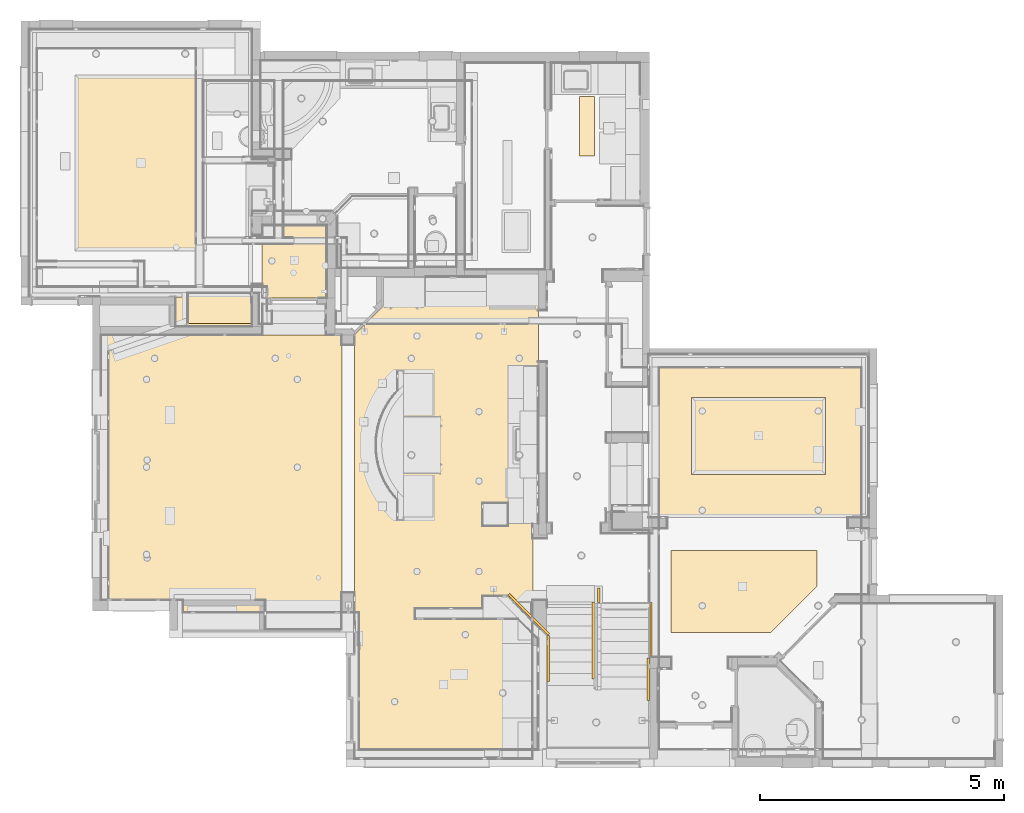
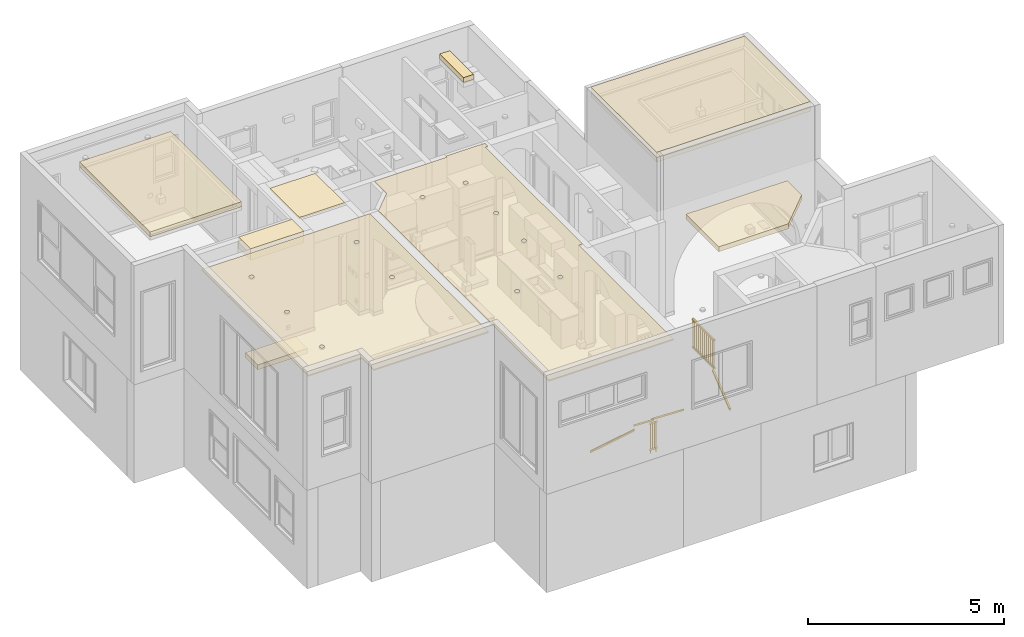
# One storey, part 31 of 60: 10 coverings, 6 railings, 1 element without a shape of its own.
"""IFC2X3 building model written with IfcOpenShell, lengths in feet."""

import ifcopenshell
import ifcopenshell.guid

model = None  # the IFC model being written
_history = None  # IfcOwnerHistory: only IFC2X3 demands one
_inside = {}  # id of a spatial element -> (the spatial element, [elements in it])
_under = {}  # id of a project, library or spatial element -> (it, [spatial elements below it])
_declared = {}  # id of a project -> (the project, [libraries it declares])
_typed = {}  # id of a type object -> (the type object, [elements of that type])
_made_of = {}  # id of a material, layer set ... -> (it, [elements and type objects made of it])


def new_model(schema):
    """Start an empty IFC model of exactly this schema.

    Asked for "IFC4X3", IfcOpenShell would pick the latest addendum, in which some entities
    have other attributes; the version numbers below select the first issue.
    IFC2X3 requires an IfcOwnerHistory on every rooted entity: one is made here for all.
    """
    global model, _history
    if schema == "IFC4X3":
        model = ifcopenshell.file(schema_version=(4, 3, 0, 0))
    else:
        model = ifcopenshell.file(schema=schema)
    _inside.clear()
    _under.clear()
    _declared.clear()
    _typed.clear()
    _made_of.clear()
    _history = None
    if model.schema == "IFC2X3":
        org = make("IfcOrganization", Name="unknown")
        user = make(
            "IfcPersonAndOrganization",
            ThePerson=make("IfcPerson", FamilyName="unknown"),
            TheOrganization=org,
        )
        app = make(
            "IfcApplication",
            ApplicationDeveloper=org,
            Version="unknown",
            ApplicationFullName="unknown",
            ApplicationIdentifier="unknown",
        )
        _history = make(
            "IfcOwnerHistory",
            OwningUser=user,
            OwningApplication=app,
            ChangeAction="ADDED",
            CreationDate=0,
        )
    return model


def make(cls, **values):
    """One entity of the class cls with the attributes given. An attribute that is None is left unset."""
    return model.create_entity(
        cls, **{name: value for name, value in values.items() if value is not None}
    )


def entity(cls, *values):
    """Any entity or typed value of the class cls, its attributes in the order of the schema. None: left unset."""
    e = model.create_entity(cls)
    for i, value in enumerate(values):
        if value is not None:
            e[i] = value
    return e


def rooted(cls, **values):
    """An entity with a GlobalId (a new one), such as an element, a storey or a relation."""
    return make(cls, GlobalId=ifcopenshell.guid.new(), OwnerHistory=_history, **values)


def si_unit(unit_type, name, prefix=None):
    """IfcSIUnit, for example si_unit("LENGTHUNIT", "METRE", prefix="MILLI")."""
    return make("IfcSIUnit", UnitType=unit_type, Prefix=prefix, Name=name)


def converted_unit(unit_type, name, factor, base, dimensions=None, offset=None):
    """IfcConversionBasedUnit, such as the inch: factor (a typed value) times the base unit."""
    return make(
        "IfcConversionBasedUnit"
        if offset is None
        else "IfcConversionBasedUnitWithOffset",
        ConversionOffset=offset,
        Dimensions=None
        if dimensions is None
        else entity("IfcDimensionalExponents", *dimensions),
        UnitType=unit_type,
        Name=name,
        ConversionFactor=make(
            "IfcMeasureWithUnit", ValueComponent=factor, UnitComponent=base
        ),
    )


def assignment(units):
    """IfcUnitAssignment: the units of a project."""
    return None if units is None else make("IfcUnitAssignment", Units=units)


def point(xyz):
    """IfcCartesianPoint."""
    return None if xyz is None else make("IfcCartesianPoint", Coordinates=xyz)


def direction(xyz):
    """IfcDirection."""
    return None if xyz is None else make("IfcDirection", DirectionRatios=xyz)


def frame(location, z_axis=None, x_axis=None):
    """IfcAxis2Placement3D, a coordinate frame: its origin and axes. An axis left out is left unset."""
    return make(
        "IfcAxis2Placement3D",
        Location=point(location),
        Axis=direction(z_axis),
        RefDirection=direction(x_axis),
    )


def frame_2d(location, x_axis=None):
    """IfcAxis2Placement2D, a coordinate frame in the plane: its origin and x axis."""
    return make(
        "IfcAxis2Placement2D", Location=point(location), RefDirection=direction(x_axis)
    )


def origin():
    """The frame at (0, 0, 0) with its axes left unset."""
    return frame((0.0, 0.0, 0.0))


def origin_2d_with_axis():
    """The frame at (0, 0) in the plane with the x axis (1, 0) written out."""
    return frame_2d((0.0, 0.0), x_axis=(1.0, 0.0))


def place(relative_to, where):
    """IfcLocalPlacement: puts the frame where relative to a parent placement (None: the world)."""
    return make(
        "IfcLocalPlacement", PlacementRelTo=relative_to, RelativePlacement=where
    )


def context(
    kind, dimensions, precision=None, world=None, true_north=None, identifier=None
):
    """IfcGeometricRepresentationContext, for example the 3D "Model" context."""
    return make(
        "IfcGeometricRepresentationContext",
        ContextIdentifier=identifier,
        ContextType=kind,
        CoordinateSpaceDimension=dimensions,
        Precision=precision,
        WorldCoordinateSystem=world,
        TrueNorth=true_north,
    )


def subcontext(parent, identifier, kind, view, scale=None):
    """IfcGeometricRepresentationSubContext, for example "Body" below "Model"."""
    return make(
        "IfcGeometricRepresentationSubContext",
        ContextIdentifier=identifier,
        ContextType=kind,
        ParentContext=parent,
        TargetScale=scale,
        TargetView=view,
    )


def project(units=None, contexts=None):
    """IfcProject with its units and contexts."""
    return rooted(
        "IfcProject",
        Name="project",
        RepresentationContexts=contexts,
        UnitsInContext=assignment(units),
    )


def spatial(cls, under=None, at=None, **own):
    """A site, building, storey or space (cls), placed at a placement, below another one or the project."""
    s = rooted(cls, ObjectPlacement=at, **own)
    if under is not None:
        _under.setdefault(under.id(), (under, []))[1].append(s)
    return s


def polyline(points):
    """IfcPolyline through the points."""
    return make("IfcPolyline", Points=[point(p) for p in points])


def circle_curve(where, radius):
    """IfcCircle in the frame where."""
    return make("IfcCircle", Position=where, Radius=radius)


def parameter(value):
    """IfcParameterValue: where a trimmed curve begins or ends, as a parameter of its basis curve."""
    return model.create_entity("IfcParameterValue", value)


def trimmed(basis, trim1, trim2, sense, master):
    """IfcTrimmedCurve: the piece of a basis curve between two trims."""
    return make(
        "IfcTrimmedCurve",
        BasisCurve=basis,
        Trim1=trim1,
        Trim2=trim2,
        SenseAgreement=sense,
        MasterRepresentation=master,
    )


def segment(curve, same_sense, transition):
    """IfcCompositeCurveSegment."""
    return make(
        "IfcCompositeCurveSegment",
        Transition=transition,
        SameSense=same_sense,
        ParentCurve=curve,
    )


def composite_curve(segments, self_intersect=None):
    """IfcCompositeCurve: segments joined end to end."""
    return make("IfcCompositeCurve", Segments=segments, SelfIntersect=self_intersect)


def profile(cls, at=None, kind="AREA", **sizes):
    """A parametric profile (cls). Its sizes go by their IFC names, for example OverallWidth=200.0."""
    return make(cls, ProfileType=kind, Position=at, **sizes)


def rectangle(**sizes):
    """IfcRectangleProfileDef."""
    return profile("IfcRectangleProfileDef", **sizes)


def outline(outer, holes=None, kind="AREA"):
    """IfcArbitraryClosedProfileDef: a profile drawn as a closed curve; with holes, ...WithVoids."""
    if holes is None:
        return make("IfcArbitraryClosedProfileDef", ProfileType=kind, OuterCurve=outer)
    return make(
        "IfcArbitraryProfileDefWithVoids",
        ProfileType=kind,
        OuterCurve=outer,
        InnerCurves=holes,
    )


def extrude(swept, where, along, depth):
    """IfcExtrudedAreaSolid: the profile swept, set in the frame where, extruded along a direction by depth."""
    return make(
        "IfcExtrudedAreaSolid",
        SweptArea=swept,
        Position=where,
        ExtrudedDirection=direction(along),
        Depth=depth,
    )


def shape(context_of_items, identifier, shape_type, items):
    """IfcShapeRepresentation: the items that make up one representation, for example the "Body"."""
    return make(
        "IfcShapeRepresentation",
        ContextOfItems=context_of_items,
        RepresentationIdentifier=identifier,
        RepresentationType=shape_type,
        Items=items,
    )


def material(Name=None, Category=None):
    """IfcMaterial."""
    return make("IfcMaterial", Name=Name, Category=Category)


def layer(
    of_material, thickness, ventilated=None, Name=None, Category=None, Priority=None
):
    """IfcMaterialLayer: one layer of a wall or slab, of a material (None: an air gap)."""
    return make(
        "IfcMaterialLayer",
        Material=of_material,
        LayerThickness=thickness,
        IsVentilated=ventilated,
        Name=Name,
        Category=Category,
        Priority=Priority,
    )


def layer_set(layers, Name=None):
    """IfcMaterialLayerSet."""
    return make("IfcMaterialLayerSet", MaterialLayers=layers, LayerSetName=Name)


def layer_usage(for_layer_set, set_direction, sense, offset, extent=None):
    """IfcMaterialLayerSetUsage: how a layer set lies in its element."""
    return make(
        "IfcMaterialLayerSetUsage",
        ForLayerSet=for_layer_set,
        LayerSetDirection=set_direction,
        DirectionSense=sense,
        OffsetFromReferenceLine=offset,
        ReferenceExtent=extent,
    )


def made_of(thing, what):
    """Note that an element or type object is made of a material, layer set ...; save() writes the relation."""
    if what is not None:
        _made_of.setdefault(what.id(), (what, []))[1].append(thing)
    return thing


def type_object(cls, material=None, **own):
    """A type object (cls), such as IfcWallType, which elements share."""
    return made_of(rooted(cls, **own), material)


def element(
    cls,
    number,
    at=None,
    inside=None,
    cuts=None,
    type_object=None,
    material=None,
    context=None,
    identifier="Body",
    shape_type=None,
    held_by="IfcProductDefinitionShape",
    body=None,
    shapes=None,
    **own,
):
    """One element of the class cls, such as IfcWall. Its Tag is "e" and its number.

    at: its placement. inside: the storey or other place that contains it. cuts: it is an
    opening in that element (IfcRelVoidsElement). A single representation is given by context,
    identifier, shape_type and body (its items); several are given by shapes. held_by: the class
    of the entity that holds the representations. save() writes the other relations.
    """
    e = rooted(cls, Tag="e%d" % number, ObjectPlacement=at, **own)
    if body is not None:
        shapes = [shape(context, identifier, shape_type, body)]
    if shapes is not None:
        e.Representation = make(held_by, Representations=shapes)
    if inside is not None:
        _inside.setdefault(inside.id(), (inside, []))[1].append(e)
    if cuts is not None:
        rooted(
            "IfcRelVoidsElement", RelatingBuildingElement=cuts, RelatedOpeningElement=e
        )
    if type_object is not None:
        _typed.setdefault(type_object.id(), (type_object, []))[1].append(e)
    return made_of(e, material)


def aggregate(whole, parts):
    """IfcRelAggregates: a whole, such as a stair, and the parts it consists of."""
    return rooted("IfcRelAggregates", RelatingObject=whole, RelatedObjects=parts)


def save(model, path):
    """Write the relations noted so far, then the file.

    IfcRelAggregates (storeys below a building ...), IfcRelContainedInSpatialStructure (elements
    in a storey), IfcRelDefinesByType, IfcRelAssociatesMaterial and IfcRelDeclares: one each for
    every whole, place, type object, material and project.
    """
    for whole, parts in _under.values():
        aggregate(whole, parts)
    for where, things in _inside.values():
        rooted(
            "IfcRelContainedInSpatialStructure",
            RelatedElements=things,
            RelatingStructure=where,
        )
    for kind, things in _typed.values():
        rooted("IfcRelDefinesByType", RelatedObjects=things, RelatingType=kind)
    for what, things in _made_of.values():
        rooted("IfcRelAssociatesMaterial", RelatedObjects=things, RelatingMaterial=what)
    for by, libraries in _declared.values():
        rooted("IfcRelDeclares", RelatingContext=by, RelatedDefinitions=libraries)
    model.write(path)


model = new_model("IFC2X3")

# Units and contexts
model_context = context("Model", 3, precision=0.0001, world=origin(), true_north=direction((6.123031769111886e-17, 1.0)))
plan_context = context("Plan", 3, precision=0.0001, world=origin(), true_north=direction((6.123031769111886e-17, 1.0)))
body_context = subcontext(model_context, "Body", "Model", "MODEL_VIEW")
ifc_project = project(units=[converted_unit("LENGTHUNIT", "FOOT", entity("IfcLengthMeasure", 0.3048), si_unit("LENGTHUNIT", "METRE"), dimensions=[1, 0, 0, 0, 0, 0, 0]), converted_unit("AREAUNIT", "SQUARE FOOT", entity("IfcAreaMeasure", 0.09290304), si_unit("AREAUNIT", "SQUARE_METRE"), dimensions=[2, 0, 0, 0, 0, 0, 0]), converted_unit("PLANEANGLEUNIT", "DEGREE", entity("IfcPlaneAngleMeasure", 0.017453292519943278), si_unit("PLANEANGLEUNIT", "RADIAN"), dimensions=[0, 0, 0, 0, 0, 0, 0])], contexts=[model_context, plan_context])

# Site, building, storey
site_placement = place(None, origin())
site = spatial("IfcSite", under=ifc_project, at=site_placement, Name="Default", CompositionType="ELEMENT")
building_placement = place(site_placement, origin())
building = spatial("IfcBuilding", under=site, at=building_placement, CompositionType="ELEMENT")
storey_placement = place(building_placement, origin())
storey = spatial("IfcBuildingStorey", under=building, at=storey_placement, Name="First floor", CompositionType="ELEMENT", Elevation=0.0)

# Coverings
ifc_material = material(Name="Default New Material")
ifc_layer_1 = layer(ifc_material, 0.5)
ifc_layer_set_1 = layer_set([ifc_layer_1], Name="Compound Ceiling:Ceiling_6\"")
ifc_layer_usage_1 = layer_usage(ifc_layer_set_1, "AXIS3", "NEGATIVE", 0.5)
covering_type_1 = type_object("IfcCoveringType", Name="Compound Ceiling:Ceiling_6\"", PredefinedType="CEILING")
covering_1_placement = place(storey_placement, frame((-10.666666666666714, 29.79166666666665, 7.916666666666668)))
element("IfcCovering", 1, at=covering_1_placement, inside=storey, type_object=covering_type_1, material=ifc_layer_usage_1, Name="Compound Ceiling:Ceiling_6\"", ObjectType="Compound Ceiling:Ceiling_6\"", PredefinedType="CEILING", context=body_context, shape_type="SweptSolid", body=[
    extrude(rectangle(XDim=2.0833333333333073, YDim=4.833333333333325, at=frame_2d((-3.552713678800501e-15, 0.0), x_axis=(1.0, 0.0))), frame((2.4166666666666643, 1.04166666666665, 0.0), z_axis=(0.0, 0.0, 1.0), x_axis=(0.0, -1.0, 0.0)), (0.0, 0.0, 1.0), 0.5000000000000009),
])
ifc_layer_usage_2 = layer_usage(ifc_layer_set_1, "AXIS3", "NEGATIVE", 0.5)
covering_2_placement = place(storey_placement, frame((20.29166666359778, 16.750000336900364, 26.166666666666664)))
element("IfcCovering", 2, at=covering_2_placement, inside=storey, type_object=covering_type_1, material=ifc_layer_usage_2, Name="Compound Ceiling:Ceiling_6\"", ObjectType="Compound Ceiling:Ceiling_6\"", PredefinedType="CEILING", context=body_context, shape_type="SweptSolid", body=[
    extrude(outline(polyline([(-5.499999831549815, -7.416666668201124), (5.499999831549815, -7.416666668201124), (5.499999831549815, 7.416666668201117), (-5.499999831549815, 7.416666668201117), (-5.499999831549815, -7.416666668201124)]), holes=[polyline([(2.5833335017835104, 4.500000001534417), (2.5833335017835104, -4.499999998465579), (-2.5833331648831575, -4.499999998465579), (-2.5833331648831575, 4.500000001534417), (2.5833335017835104, 4.500000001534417)])]), frame((7.416666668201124, 5.499999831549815, 0.0), z_axis=(0.0, 0.0, 1.0), x_axis=(0.0, -1.0, 0.0)), (0.0, 0.0, 1.0), 0.5),
])
ifc_layer_usage_3 = layer_usage(ifc_layer_set_1, "AXIS3", "NEGATIVE", 0.5)
covering_3_placement = place(storey_placement, frame((20.29166666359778, 16.750000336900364, 26.666666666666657)))
element("IfcCovering", 3, at=covering_3_placement, inside=storey, type_object=covering_type_1, material=ifc_layer_usage_3, Name="Compound Ceiling:Ceiling_6\"", ObjectType="Compound Ceiling:Ceiling_6\"", PredefinedType="CEILING", context=body_context, shape_type="SweptSolid", body=[
    extrude(rectangle(XDim=10.99999966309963, YDim=14.83333333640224, at=frame_2d((0.0, -3.552713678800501e-15), x_axis=(1.0, 0.0))), frame((7.416666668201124, 5.499999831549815, 0.0), z_axis=(0.0, 0.0, 1.0), x_axis=(0.0, -1.0, 0.0)), (0.0, 0.0, 1.0), 0.5),
])
ifc_layer_usage_4 = layer_usage(ifc_layer_set_1, "AXIS3", "NEGATIVE", 0.5)
covering_4_placement = place(storey_placement, frame((21.833333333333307, 9.041666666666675, 21.166666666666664)))
element("IfcCovering", 4, at=covering_4_placement, inside=storey, type_object=covering_type_1, material=ifc_layer_usage_4, Name="Compound Ceiling:Ceiling_6\"", ObjectType="Compound Ceiling:Ceiling_6\"", PredefinedType="CEILING", context=body_context, shape_type="SweptSolid", body=[
    extrude(outline(polyline([(-2.681985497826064, -5.256985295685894), (2.818014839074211, -5.256985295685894), (2.8180148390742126, 1.4446078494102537), (-0.2720586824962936, 4.534681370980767), (-2.681985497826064, 4.534681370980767), (-2.681985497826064, -5.256985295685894)])), frame((5.25698529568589, 2.8180148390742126, 0.0), z_axis=(0.0, 0.0, 1.0), x_axis=(0.0, -1.0, 0.0)), (0.0, 0.0, 1.0), 0.5),
])
ifc_layer_usage_5 = layer_usage(ifc_layer_set_1, "AXIS3", "NEGATIVE", 0.5)
covering_5_placement = place(storey_placement, frame((-18.229166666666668, 34.66666666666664, 21.166666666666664)))
element("IfcCovering", 5, at=covering_5_placement, inside=storey, type_object=covering_type_1, material=ifc_layer_usage_5, Name="Compound Ceiling:Ceiling_6\"", ObjectType="Compound Ceiling:Ceiling_6\"", PredefinedType="CEILING", context=body_context, shape_type="SweptSolid", body=[
    extrude(rectangle(XDim=8.833333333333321, YDim=11.833333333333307, at=frame_2d((0.0, 3.552713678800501e-15), x_axis=(1.0, 0.0))), frame((4.41666666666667, 5.916666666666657, 0.0), z_axis=(0.0, 0.0, 1.0), x_axis=(-1.0, 0.0, 0.0)), (0.0, 0.0, 1.0), 0.5),
])
ifc_layer_usage_6 = layer_usage(ifc_layer_set_1, "AXIS3", "NEGATIVE", 0.5)
covering_6_placement = place(storey_placement, frame((15.676757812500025, 41.038722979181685, 21.166666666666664)))
element("IfcCovering", 6, at=covering_6_placement, inside=storey, type_object=covering_type_1, material=ifc_layer_usage_6, Name="Compound Ceiling:Ceiling_6\"", ObjectType="Compound Ceiling:Ceiling_6\"", PredefinedType="CEILING", context=body_context, shape_type="SweptSolid", body=[
    extrude(rectangle(XDim=4.0, YDim=1.0, at=origin_2d_with_axis()), frame((0.5000000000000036, 2.0, 0.0), z_axis=(0.0, 0.0, 1.0), x_axis=(0.0, 1.0, 0.0)), (0.0, 0.0, 1.0), 0.5),
])
ifc_layer_2 = layer(ifc_material, 0.16666666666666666)
ifc_layer_set_2 = layer_set([ifc_layer_2], Name="Compound Ceiling:Ceiling_2\"")
ifc_layer_usage_7 = layer_usage(ifc_layer_set_2, "AXIS3", "NEGATIVE", 0.16666666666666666)
covering_type_2 = type_object("IfcCoveringType", Name="Compound Ceiling:Ceiling_2\"", PredefinedType="CEILING")
covering_7_placement = place(storey_placement, frame((-5.645833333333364, 31.49999999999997, 20.5)))
element("IfcCovering", 7, at=covering_7_placement, inside=storey, type_object=covering_type_2, material=ifc_layer_usage_7, Name="Compound Ceiling:Ceiling_2\"", ObjectType="Compound Ceiling:Ceiling_2\"", PredefinedType="CEILING", context=body_context, shape_type="SweptSolid", body=[
    extrude(rectangle(XDim=4.354166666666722, YDim=4.916666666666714, at=origin_2d_with_axis()), frame((2.177083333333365, 2.458333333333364, 0.0), z_axis=(0.0, 0.0, 1.0), x_axis=(-1.0, 0.0, 0.0)), (0.0, 0.0, 1.0), 0.16666666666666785),
])
ifc_layer_3 = layer(ifc_material, 1.1666666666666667)
ifc_layer_set_3 = layer_set([ifc_layer_3], Name="Compound Ceiling:Ceiling_14\"")
ifc_layer_usage_8 = layer_usage(ifc_layer_set_3, "AXIS3", "NEGATIVE", 1.1666666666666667)
covering_type_3 = type_object("IfcCoveringType", Name="Compound Ceiling:Ceiling_14\"", PredefinedType="CEILING")
covering_8_placement = place(storey_placement, frame((-11.479166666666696, 29.583333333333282, 19.5)))
element("IfcCovering", 8, at=covering_8_placement, inside=storey, type_object=covering_type_3, material=ifc_layer_usage_8, Name="Compound Ceiling:Ceiling_14\"", ObjectType="Compound Ceiling:Ceiling_14\"", PredefinedType="CEILING", context=body_context, shape_type="SweptSolid", body=[
    extrude(rectangle(XDim=5.1666666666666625, YDim=2.0000000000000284, at=frame_2d((8.881784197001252e-16, 0.0), x_axis=(1.0, 0.0))), frame((2.583333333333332, 1.0, 0.0), z_axis=(0.0, 0.0, 1.0), x_axis=(-1.0, 0.0, 0.0)), (0.0, 0.0, 1.0), 1.1666666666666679),
])
ifc_layer_4 = layer(ifc_material, 0.125)
ifc_layer_set_4 = layer_set([ifc_layer_4], Name="Compound Ceiling:Ceiling_1.5\"")
ifc_layer_usage_9 = layer_usage(ifc_layer_set_4, "AXIS3", "NEGATIVE", 0.125)
covering_type_4 = type_object("IfcCoveringType", Name="Compound Ceiling:Ceiling_1.5\"", PredefinedType="CEILING")
covering_9_placement = place(storey_placement, frame((-16.50000000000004, 9.208333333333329, 20.541666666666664)))
element("IfcCovering", 9, at=covering_9_placement, inside=storey, type_object=covering_type_4, material=ifc_layer_usage_9, Name="Compound Ceiling:Ceiling_1.5\"", ObjectType="Compound Ceiling:Ceiling_1.5\"", PredefinedType="CEILING", context=body_context, shape_type="SweptSolid", body=[
    extrude(outline(polyline([(-7.7361111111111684, 3.032407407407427), (-7.736111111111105, -14.800925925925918), (8.472222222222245, -14.800925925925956), (8.472222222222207, 5.032407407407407), (3.305555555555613, 5.032407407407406), (2.930555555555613, 5.032407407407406), (-2.569444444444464, 5.032407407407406), (-2.5694444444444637, 3.4074074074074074), (-2.5694444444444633, 3.032407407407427), (-7.7361111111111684, 3.032407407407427)]), holes=[composite_curve([segment(trimmed(circle_curve(frame_2d((-4.652777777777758, -11.8027859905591), x_axis=(0.0, 1.0)), 0.20833333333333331), [parameter(180.00000000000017)], [parameter(359.9999999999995)], True, "PARAMETER"), False, "CONTINUOUS"), segment(trimmed(circle_curve(frame_2d((-4.652777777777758, -11.8027859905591), x_axis=(0.0, 1.0)), 0.20833333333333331), [parameter(4.579998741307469e-13)], [parameter(180.0000000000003)], True, "PARAMETER"), False, "CONTINUOUS")], self_intersect=False), composite_curve([segment(trimmed(circle_curve(frame_2d((-4.65277777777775, -5.90379326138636), x_axis=(0.0, 1.0)), 0.20833333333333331), [parameter(180.00000000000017)], [parameter(359.9999999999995)], True, "PARAMETER"), False, "CONTINUOUS"), segment(trimmed(circle_curve(frame_2d((-4.65277777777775, -5.90379326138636), x_axis=(0.0, 1.0)), 0.20833333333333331), [parameter(4.579998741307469e-13)], [parameter(180.0000000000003)], True, "PARAMETER"), False, "CONTINUOUS")], self_intersect=False), composite_curve([segment(trimmed(circle_curve(frame_2d((-4.652777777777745, -0.0509259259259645), x_axis=(0.0, 1.0)), 0.20833333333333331), [parameter(180.00000000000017)], [parameter(359.9999999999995)], True, "PARAMETER"), False, "CONTINUOUS"), segment(trimmed(circle_curve(frame_2d((-4.652777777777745, -0.0509259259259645), x_axis=(0.0, 1.0)), 0.20833333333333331), [parameter(4.579998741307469e-13)], [parameter(180.0000000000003)], True, "PARAMETER"), False, "CONTINUOUS")], self_intersect=False), composite_curve([segment(trimmed(circle_curve(frame_2d((5.478928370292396, -5.901922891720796), x_axis=(0.0, 1.0)), 0.20833333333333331), [parameter(180.00000000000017)], [parameter(359.99999999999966)], True, "PARAMETER"), False, "CONTINUOUS"), segment(trimmed(circle_curve(frame_2d((5.478928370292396, -5.901922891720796), x_axis=(0.0, 1.0)), 0.20833333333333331), [parameter(3.5622212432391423e-13)], [parameter(180.00000000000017)], True, "PARAMETER"), False, "CONTINUOUS")], self_intersect=False), composite_curve([segment(trimmed(circle_curve(frame_2d((5.478928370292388, -11.802785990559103), x_axis=(0.0, 1.0)), 0.20833333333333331), [parameter(180.00000000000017)], [parameter(359.99999999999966)], True, "PARAMETER"), False, "CONTINUOUS"), segment(trimmed(circle_curve(frame_2d((5.478928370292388, -11.802785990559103), x_axis=(0.0, 1.0)), 0.20833333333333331), [parameter(3.5622212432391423e-13)], [parameter(180.00000000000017)], True, "PARAMETER"), False, "CONTINUOUS")], self_intersect=False)]), frame((7.736111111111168, 5.032407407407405, 0.0), z_axis=(0.0, 0.0, -1.0), x_axis=(1.0, 0.0, 0.0)), (0.0, 0.0, -1.0), 0.125),
])
ifc_layer_5 = layer(ifc_material, 0.125)
ifc_layer_set_5 = layer_set([ifc_layer_5], Name="Compound Ceiling:Ceiling_1.5\" 1")
ifc_layer_usage_10 = layer_usage(ifc_layer_set_5, "AXIS3", "NEGATIVE", 0.125)
covering_type_5 = type_object("IfcCoveringType", Name="Compound Ceiling:Ceiling_1.5\" 1", PredefinedType="CEILING")
covering_10_placement = place(storey_placement, frame((0.5416666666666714, 0.5416666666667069, 20.541666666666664)))
element("IfcCovering", 10, at=covering_10_placement, inside=storey, type_object=covering_type_5, material=ifc_layer_usage_10, Name="Compound Ceiling:Ceiling_1.5\" 1", ObjectType="Compound Ceiling:Ceiling_1.5\" 1", PredefinedType="CEILING", context=body_context, shape_type="SweptSolid", body=[
    extrude(outline(polyline([(-8.012952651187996, 6.426567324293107), (-8.012952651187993, -0.5737698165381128), (-8.179619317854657, -0.5737698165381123), (-8.17961931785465, -4.073769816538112), (-8.179619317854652, -4.344603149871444), (-7.679274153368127, -4.344603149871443), (-7.679274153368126, -4.073769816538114), (8.591559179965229, -4.073769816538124), (8.591559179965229, -3.698769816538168), (24.403714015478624, -3.6987698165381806), (24.40371401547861, 8.301230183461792), (-4.096285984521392, 8.301230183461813), (-5.970948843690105, 6.426567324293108), (-8.012952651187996, 6.426567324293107)]), holes=[composite_curve([segment(trimmed(circle_curve(frame_2d((-4.012952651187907, 4.0932339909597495), x_axis=(1.0, 0.0)), 0.20833333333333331), [parameter(179.99999999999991)], [parameter(359.9999999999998)], True, "PARAMETER"), False, "CONTINUOUS"), segment(trimmed(circle_curve(frame_2d((-4.012952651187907, 4.0932339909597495), x_axis=(1.0, 0.0)), 0.20833333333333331), [parameter(4.579998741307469e-13)], [parameter(180.00000000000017)], True, "PARAMETER"), False, "CONTINUOUS")], self_intersect=False), composite_curve([segment(trimmed(circle_curve(frame_2d((-4.012952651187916, -0.07343267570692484), x_axis=(1.0, 0.0)), 0.20833333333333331), [parameter(180.00000000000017)], [parameter(359.9999999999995)], True, "PARAMETER"), False, "CONTINUOUS"), segment(trimmed(circle_curve(frame_2d((-4.012952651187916, -0.07343267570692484), x_axis=(1.0, 0.0)), 0.20833333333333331), [parameter(4.579998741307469e-13)], [parameter(180.0000000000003)], True, "PARAMETER"), False, "CONTINUOUS")], self_intersect=False), composite_curve([segment(trimmed(circle_curve(frame_2d((1.0703806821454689, -0.07343267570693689), x_axis=(1.0, 0.0)), 0.20833333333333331), [parameter(180.00000000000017)], [parameter(359.9999999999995)], True, "PARAMETER"), False, "CONTINUOUS"), segment(trimmed(circle_curve(frame_2d((1.0703806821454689, -0.07343267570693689), x_axis=(1.0, 0.0)), 0.20833333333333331), [parameter(4.579998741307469e-13)], [parameter(180.0000000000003)], True, "PARAMETER"), False, "CONTINUOUS")], self_intersect=False), composite_curve([segment(trimmed(circle_curve(frame_2d((5.73704734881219, -0.07343267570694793), x_axis=(1.0, 0.0)), 0.20833333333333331), [parameter(180.00000000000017)], [parameter(359.9999999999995)], True, "PARAMETER"), False, "CONTINUOUS"), segment(trimmed(circle_curve(frame_2d((5.73704734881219, -0.07343267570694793), x_axis=(1.0, 0.0)), 0.20833333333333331), [parameter(4.579998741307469e-13)], [parameter(180.0000000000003)], True, "PARAMETER"), False, "CONTINUOUS")], self_intersect=False), composite_curve([segment(trimmed(circle_curve(frame_2d((11.805561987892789, -0.07343267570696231), x_axis=(1.0, 0.0)), 0.20833333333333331), [parameter(180.00000000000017)], [parameter(359.9999999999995)], True, "PARAMETER"), False, "CONTINUOUS"), segment(trimmed(circle_curve(frame_2d((11.805561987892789, -0.07343267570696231), x_axis=(1.0, 0.0)), 0.20833333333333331), [parameter(4.579998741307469e-13)], [parameter(180.0000000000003)], True, "PARAMETER"), False, "CONTINUOUS")], self_intersect=False), composite_curve([segment(trimmed(circle_curve(frame_2d((11.805561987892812, 4.093233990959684), x_axis=(1.0, 0.0)), 0.20833333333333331), [parameter(179.99999999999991)], [parameter(359.9999999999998)], True, "PARAMETER"), False, "CONTINUOUS"), segment(trimmed(circle_curve(frame_2d((11.805561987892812, 4.093233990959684), x_axis=(1.0, 0.0)), 0.20833333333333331), [parameter(4.579998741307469e-13)], [parameter(180.00000000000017)], True, "PARAMETER"), False, "CONTINUOUS")], self_intersect=False)]), frame((8.30123018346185, 24.40371401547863, 0.0), z_axis=(0.0, 0.0, -1.0), x_axis=(0.0, -1.0, 0.0)), (0.0, 0.0, -1.0), 0.125),
])

# Stair, railings
type_product = type_object("IfcTypeProduct", Name="Assembled Stair:Stair_2018")
stair_placement = place(storey_placement, origin())
stair = element("IfcStair", 11, at=stair_placement, inside=storey, type_object=type_product, Name="Assembled Stair:Stair", ObjectType="Assembled Stair:Stair_2018", ShapeType="NOTDEFINED")
railing_type_1 = type_object("IfcRailingType", Name="Railing:Railing_4", PredefinedType="NOTDEFINED")
railing_1_placement = place(stair_placement, frame((10.862325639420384, 8.86232563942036, 2.938016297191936)))
railing_1 = element("IfcRailing", 12, at=railing_1_placement, type_object=railing_type_1, material=ifc_material, Name="Railing:Railing_4", ObjectType="Railing:Railing_4", PredefinedType="NOTDEFINED", context=body_context, shape_type="SweptSolid", body=[
    extrude(outline(polyline([(-2.324772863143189, -0.0833333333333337), (2.451995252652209, -0.08333333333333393), (2.32477286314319, 0.0833333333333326), (-2.451995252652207, 0.08333333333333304), (-2.324772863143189, -0.0833333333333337)])), frame((1.342433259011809, 1.3424332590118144, 1.554017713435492), z_axis=(0.707106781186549, 0.7071067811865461, 0.0), x_axis=(0.562067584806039, -0.5620675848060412, 0.6067619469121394)), (0.0, 0.0, 1.0), 0.1666666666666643),
])
railing_type_2 = type_object("IfcRailingType", Name="Railing:Railing_4 2", PredefinedType="NOTDEFINED")
railing_2_placement = place(stair_placement, frame((16.499999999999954, 5.913190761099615, 4.588770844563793)))
railing_2 = element("IfcRailing", 13, at=railing_2_placement, type_object=railing_type_2, material=ifc_material, Name="Railing:Railing_4 2", ObjectType="Railing:Railing_4 2", PredefinedType="NOTDEFINED", context=body_context, shape_type="SweptSolid", body=[
    extrude(outline(polyline([(-3.237240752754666, -0.08333333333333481), (3.3683819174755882, -0.0833333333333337), (3.2372407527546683, 0.08333333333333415), (-3.3683819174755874, 0.08333333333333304), (-3.237240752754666, -0.08333333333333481)])), frame((0.0, 2.595632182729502, 2.148402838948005), z_axis=(1.0, 0.0, 0.0), x_axis=(0.0, -0.7858856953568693, 0.6183717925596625)), (0.0, 0.0, 1.0), 0.1666666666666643),
])
railing_3_placement = place(stair_placement, frame((13.501238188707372, 5.737605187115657, 6.375795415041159)))
railing_3 = element("IfcRailing", 14, at=railing_3_placement, type_object=railing_type_2, material=ifc_material, Name="Railing:Railing_4 2", ObjectType="Railing:Railing_4 2", PredefinedType="NOTDEFINED", context=body_context, shape_type="SweptSolid", body=[
    extrude(outline(polyline([(-1.9040092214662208, -0.08333333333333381), (2.0351503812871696, -0.08333333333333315), (1.9040092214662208, 0.08333333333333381), (-2.0351503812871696, 0.08333333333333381), (-1.9040092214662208, -0.08333333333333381)])), frame((0.0, 1.5478646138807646, 1.32397003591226), z_axis=(1.0, 0.0, 0.0), x_axis=(0.0, -0.7858857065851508, 0.618371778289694)), (0.0, 0.0, 1.0), 0.16666666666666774),
])
railing_type_3 = type_object("IfcRailingType", Name="Railing:Railing_1.3 3", PredefinedType="NOTDEFINED")
railing_4_placement = place(stair_placement, frame((16.885416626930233, 11.04166666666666, 0.5049815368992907)))
railing_4 = element("IfcRailing", 15, at=railing_4_placement, type_object=railing_type_3, material=ifc_material, Name="Railing:Railing_1.3 3", ObjectType="Railing:Railing_1.3 3", PredefinedType="NOTDEFINED", context=body_context, shape_type="SweptSolid", body=[
    extrude(outline(polyline([(-1.251884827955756, -0.03125), (1.2027068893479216, -0.03125), (1.2518848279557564, 0.03125), (-1.2027068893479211, 0.03125), (-1.251884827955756, -0.03125)])), frame((0.0520833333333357, 0.3329238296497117, 2.227271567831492), z_axis=(1.0, 0.0, 0.0), x_axis=(0.0, 0.0, -1.0)), (0.0, 0.0, 1.0), 0.0625),
    extrude(outline(polyline([(-1.251884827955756, -0.03125), (1.2027068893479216, -0.03125), (1.2518848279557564, 0.03125), (-1.2027068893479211, 0.03125), (-1.251884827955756, -0.03125)])), frame((0.0520833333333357, 0.6662571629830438, 1.9649892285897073), z_axis=(1.0, 0.0, 0.0), x_axis=(0.0, 0.0, -1.0)), (0.0, 0.0, 1.0), 0.0625),
    extrude(outline(polyline([(-1.501884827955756, -0.03125), (1.4772958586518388, -0.03125), (1.4772958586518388, 0.03125), (-1.4527068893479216, 0.03125), (-1.501884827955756, -0.03125)])), frame((0.0520833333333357, 0.03125, 2.2146427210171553), z_axis=(1.0, 0.0, 0.0), x_axis=(0.0, 0.0, -1.0)), (0.0, 0.0, 1.0), 0.0625),
    extrude(outline(polyline([(-1.5018848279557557, -0.03125), (1.477295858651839, -0.03125), (1.477295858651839, 0.03125), (-1.4527068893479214, 0.03125), (-1.5018848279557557, -0.03125)])), frame((0.0520833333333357, 0.9683404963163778, 1.477295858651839), z_axis=(1.0, 0.0, 0.0), x_axis=(0.0, 0.0, -1.0)), (0.0, 0.0, 1.0), 0.0625),
    extrude(outline(polyline([(-0.5703937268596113, -0.08333333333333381), (0.701534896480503, -0.08333333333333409), (0.5703937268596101, 0.08333333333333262), (-0.7015348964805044, 0.08333333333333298), (-0.5703937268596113, -0.08333333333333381)])), frame((0.0, 0.499795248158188, 0.7626359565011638), z_axis=(1.0, 0.0, 0.0), x_axis=(0.0, -0.7858856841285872, 0.6183718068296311)), (0.0, 0.0, 1.0), 0.1666666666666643),
    extrude(outline(polyline([(-0.5703937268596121, -0.08333333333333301), (0.7015348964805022, -0.08333333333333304), (0.5703937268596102, 0.0833333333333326), (-0.7015348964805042, 0.08333333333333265), (-0.5703937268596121, -0.08333333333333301)])), frame((0.0, 0.499795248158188, 3.4293026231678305), z_axis=(1.0, 0.0, 0.0), x_axis=(0.0, -0.7858856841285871, 0.6183718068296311)), (0.0, 0.0, 1.0), 0.1666666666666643),
])

# Railing
railing_type_4 = type_object("IfcRailingType", Name="Railing:Railing_1.3 2", PredefinedType="NOTDEFINED")
railing_5_placement = place(storey_placement, frame((20.390091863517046, 7.416666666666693, 10.666666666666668)))
element("IfcRailing", 16, at=railing_5_placement, inside=storey, type_object=railing_type_4, material=ifc_material, Name="Railing:Railing_1.3 2", ObjectType="Railing:Railing_1.3 2", PredefinedType="NOTDEFINED", context=body_context, shape_type="SweptSolid", body=[
    extrude(rectangle(XDim=0.0625, YDim=0.0625, at=origin_2d_with_axis()), frame((0.0833333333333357, 0.29332661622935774, 0.1666666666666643), z_axis=(0.0, 0.0, 1.0), x_axis=(0.0, -1.0, 0.0)), (0.0, 0.0, 1.0), 2.6666666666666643),
    extrude(rectangle(XDim=0.0625, YDim=0.0625, at=origin_2d_with_axis()), frame((0.0833333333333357, 0.6266599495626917, 0.1666666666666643), z_axis=(0.0, 0.0, 1.0), x_axis=(0.0, -1.0, 0.0)), (0.0, 0.0, 1.0), 2.6666666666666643),
    extrude(rectangle(XDim=0.0625, YDim=0.0625, at=origin_2d_with_axis()), frame((0.08333333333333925, 0.9599932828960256, 0.1666666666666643), z_axis=(0.0, 0.0, 1.0), x_axis=(0.0, -1.0, 0.0)), (0.0, 0.0, 1.0), 2.6666666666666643),
    extrude(rectangle(XDim=0.0625, YDim=0.0625, at=origin_2d_with_axis()), frame((0.08333333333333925, 1.2933266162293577, 0.1666666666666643), z_axis=(0.0, 0.0, 1.0), x_axis=(0.0, -1.0, 0.0)), (0.0, 0.0, 1.0), 2.6666666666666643),
    extrude(rectangle(XDim=0.0625, YDim=0.0625, at=origin_2d_with_axis()), frame((0.08333333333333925, 1.6266599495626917, 0.1666666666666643), z_axis=(0.0, 0.0, 1.0), x_axis=(0.0, -1.0, 0.0)), (0.0, 0.0, 1.0), 2.6666666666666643),
    extrude(rectangle(XDim=0.0625, YDim=0.0625, at=origin_2d_with_axis()), frame((0.08333333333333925, 1.9599932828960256, 0.1666666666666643), z_axis=(0.0, 0.0, 1.0), x_axis=(0.0, -1.0, 0.0)), (0.0, 0.0, 1.0), 2.6666666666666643),
    extrude(rectangle(XDim=0.0625, YDim=0.0625, at=origin_2d_with_axis()), frame((0.08333333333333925, 2.2933266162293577, 0.1666666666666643), z_axis=(0.0, 0.0, 1.0), x_axis=(0.0, -1.0, 0.0)), (0.0, 0.0, 1.0), 2.6666666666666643),
    extrude(rectangle(XDim=0.0625, YDim=0.0625, at=origin_2d_with_axis()), frame((0.08333333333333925, 2.6266599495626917, 0.1666666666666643), z_axis=(0.0, 0.0, 1.0), x_axis=(0.0, -1.0, 0.0)), (0.0, 0.0, 1.0), 2.6666666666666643),
    extrude(rectangle(XDim=0.0625, YDim=0.0625, at=origin_2d_with_axis()), frame((0.08333333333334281, 2.9599932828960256, 0.1666666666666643), z_axis=(0.0, 0.0, 1.0), x_axis=(0.0, -1.0, 0.0)), (0.0, 0.0, 1.0), 2.6666666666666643),
    extrude(rectangle(XDim=0.0625, YDim=0.0625, at=origin_2d_with_axis()), frame((0.08333333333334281, 3.2933266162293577, 0.1666666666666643), z_axis=(0.0, 0.0, 1.0), x_axis=(0.0, -1.0, 0.0)), (0.0, 0.0, 1.0), 2.6666666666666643),
    extrude(rectangle(XDim=0.0625, YDim=0.0625, at=origin_2d_with_axis()), frame((0.0833333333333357, 0.03125, 0.1666666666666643), z_axis=(0.0, 0.0, 1.0), x_axis=(0.0, -1.0, 0.0)), (0.0, 0.0, 1.0), 2.6666666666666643),
    extrude(rectangle(XDim=0.0625, YDim=0.0625, at=origin_2d_with_axis()), frame((0.08333333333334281, 3.5954099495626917, 0.1666666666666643), z_axis=(0.0, 0.0, 1.0), x_axis=(0.0, -1.0, 0.0)), (0.0, 0.0, 1.0), 2.6666666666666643),
    extrude(rectangle(XDim=3.6266599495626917, YDim=0.16666666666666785, at=frame_2d((8.881784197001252e-16, -1.7763568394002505e-15), x_axis=(1.0, 0.0))), frame((0.08333333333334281, 1.8133299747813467, 0.0), z_axis=(0.0, 0.0, 1.0), x_axis=(0.0, -1.0, 0.0)), (0.0, 0.0, 1.0), 0.16666666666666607),
    extrude(rectangle(XDim=3.6266599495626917, YDim=0.16666666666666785, at=frame_2d((8.881784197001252e-16, -1.7763568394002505e-15), x_axis=(1.0, 0.0))), frame((0.08333333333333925, 1.8133299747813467, 2.833333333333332), z_axis=(0.0, 0.0, 1.0), x_axis=(0.0, -1.0, 0.0)), (0.0, 0.0, 1.0), 0.16666666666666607),
])

railing_type_5 = type_object("IfcRailingType", Name="Railing:Railing_4 3", PredefinedType="NOTDEFINED")
railing_6_placement = place(stair_placement, frame((20.20833333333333, 4.480917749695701, 8.292149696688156)))
railing_6 = element("IfcRailing", 17, at=railing_6_placement, type_object=railing_type_5, material=ifc_material, Name="Railing:Railing_4 3", ObjectType="Railing:Railing_4 3", PredefinedType="NOTDEFINED", context=body_context, shape_type="SweptSolid", body=[
    extrude(outline(polyline([(-1.8819566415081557, -0.08333333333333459), (1.750815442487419, -0.08333333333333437), (1.8819566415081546, 0.08333333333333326), (-1.7508154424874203, 0.08333333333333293), (-1.8819566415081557, -0.08333333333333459)])), frame((0.0, 1.4274716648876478, 1.2292395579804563), z_axis=(1.0, 0.0, 0.0), x_axis=(0.0, 0.7858856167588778, 0.6183718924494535)), (0.0, 0.0, 1.0), 0.16666666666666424),
])

aggregate(stair, [railing_1, railing_2, railing_3, railing_4, railing_6])

save(model, "model.ifc")
